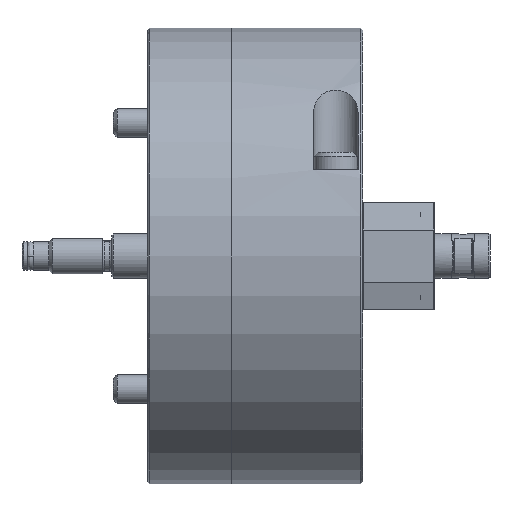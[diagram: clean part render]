
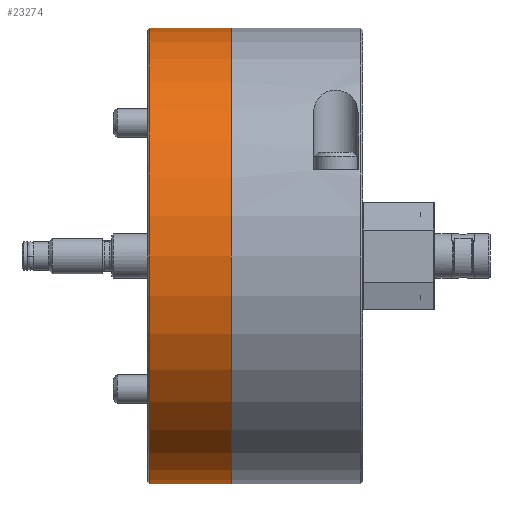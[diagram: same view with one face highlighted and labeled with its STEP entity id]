
A CAD part, front view. The second image highlights one B-rep face of the part: STEP entity #23274.
In plain terms, the highlighted cylindrical face has radius 127 mm (diameter 254 mm), a partial arc.
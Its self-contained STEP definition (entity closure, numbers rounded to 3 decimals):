
#1647 = ORIENTED_EDGE ( 'NONE', *, *, #25751, .F. ) ;
#2365 = VERTEX_POINT ( 'NONE', #42569 ) ;
#2662 = DIRECTION ( 'NONE',  ( 1., 0., 0. ) ) ;
#3105 = CIRCLE ( 'NONE', #35896, 127. ) ;
#4239 = CARTESIAN_POINT ( 'NONE',  ( -119., 0., 0. ) ) ;
#6075 = DIRECTION ( 'NONE',  ( 1., 0., 0. ) ) ;
#7701 = DIRECTION ( 'NONE',  ( 0., 0., 1. ) ) ;
#10056 = DIRECTION ( 'NONE',  ( 1., 0., 0. ) ) ;
#11565 = DIRECTION ( 'NONE',  ( 0., 0., -1. ) ) ;
#11746 = VECTOR ( 'NONE', #10056, 1000. ) ;
#12152 = EDGE_CURVE ( 'NONE', #13097, #2365, #41717, .T. ) ;
#13097 = VERTEX_POINT ( 'NONE', #31937 ) ;
#14917 = CARTESIAN_POINT ( 'NONE',  ( 0., 0., 0. ) ) ;
#15062 = DIRECTION ( 'NONE',  ( 1., 0., 0. ) ) ;
#16489 = CARTESIAN_POINT ( 'NONE',  ( -73.4, 0., 127. ) ) ;
#17577 = AXIS2_PLACEMENT_3D ( 'NONE', #14917, #15062, #11565 ) ;
#19542 = ORIENTED_EDGE ( 'NONE', *, *, #20383, .T. ) ;
#19940 = CARTESIAN_POINT ( 'NONE',  ( 0., 0., -127. ) ) ;
#20383 = EDGE_CURVE ( 'NONE', #2365, #35088, #22976, .T. ) ;
#20614 = CYLINDRICAL_SURFACE ( 'NONE', #17577, 127. ) ;
#22133 = CARTESIAN_POINT ( 'NONE',  ( -73.4, 0., -127. ) ) ;
#22976 = LINE ( 'NONE', #19940, #33246 ) ;
#23210 = AXIS2_PLACEMENT_3D ( 'NONE', #4239, #28373, #7701 ) ;
#23274 = ADVANCED_FACE ( 'NONE', ( #30823 ), #20614, .T. ) ;
#23963 = CARTESIAN_POINT ( 'NONE',  ( 0., 0., 127. ) ) ;
#25751 = EDGE_CURVE ( 'NONE', #13097, #42394, #30117, .T. ) ;
#26222 = ORIENTED_EDGE ( 'NONE', *, *, #35272, .F. ) ;
#26763 = CARTESIAN_POINT ( 'NONE',  ( -73.4, 0., 0. ) ) ;
#26822 = EDGE_LOOP ( 'NONE', ( #1647, #35990, #19542, #26222 ) ) ;
#28373 = DIRECTION ( 'NONE',  ( 1., 0., 0. ) ) ;
#30117 = LINE ( 'NONE', #23963, #11746 ) ;
#30242 = DIRECTION ( 'NONE',  ( 0., 0., -1. ) ) ;
#30823 = FACE_OUTER_BOUND ( 'NONE', #26822, .T. ) ;
#31937 = CARTESIAN_POINT ( 'NONE',  ( -119., 0., 127. ) ) ;
#33246 = VECTOR ( 'NONE', #2662, 1000. ) ;
#35088 = VERTEX_POINT ( 'NONE', #22133 ) ;
#35272 = EDGE_CURVE ( 'NONE', #42394, #35088, #3105, .T. ) ;
#35896 = AXIS2_PLACEMENT_3D ( 'NONE', #26763, #6075, #30242 ) ;
#35990 = ORIENTED_EDGE ( 'NONE', *, *, #12152, .T. ) ;
#41717 = CIRCLE ( 'NONE', #23210, 127. ) ;
#42394 = VERTEX_POINT ( 'NONE', #16489 ) ;
#42569 = CARTESIAN_POINT ( 'NONE',  ( -119., 0., -127. ) ) ;
